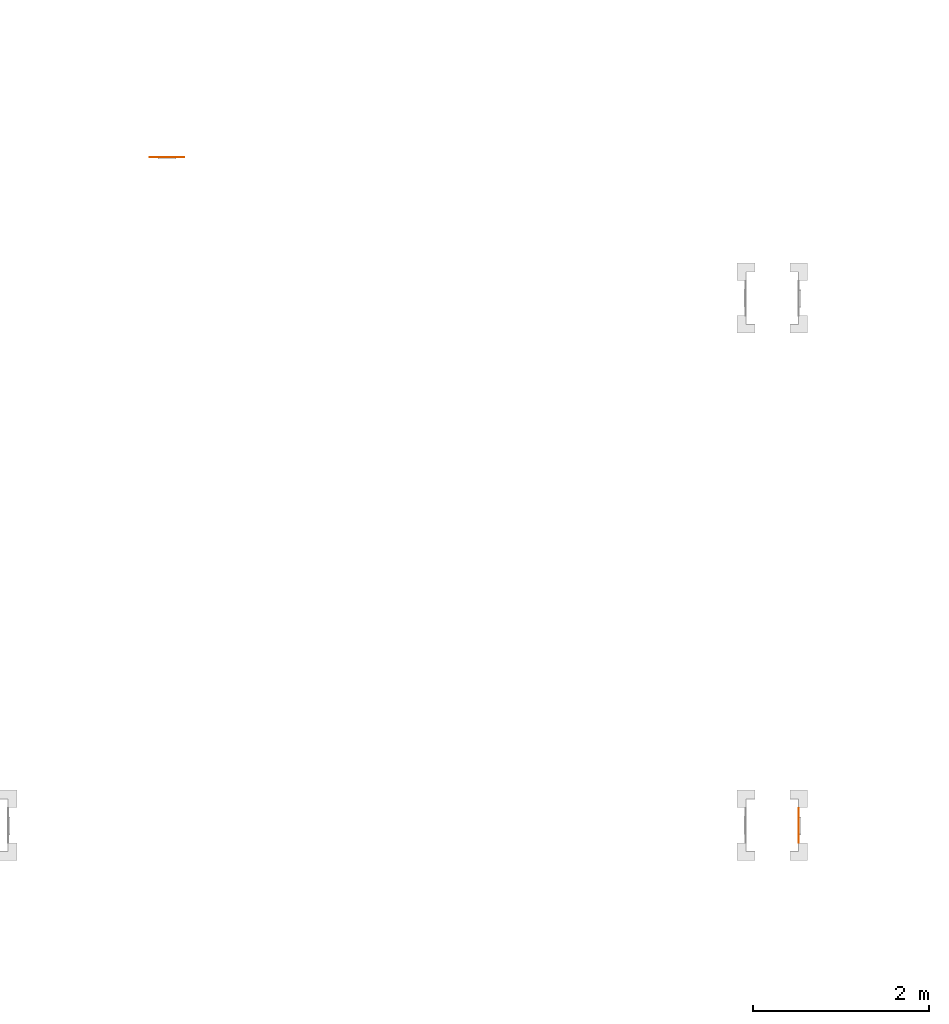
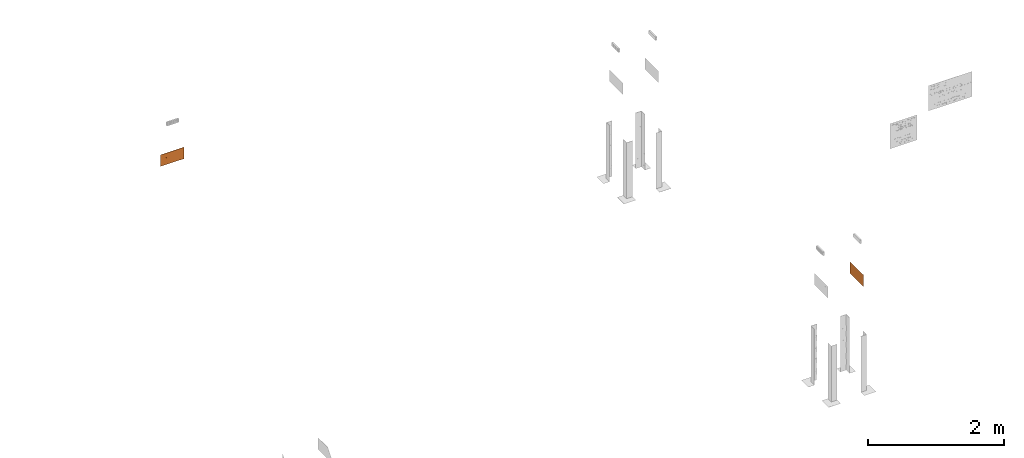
# One storey, part 83 of 119: 2 proxies.
"""IFC2X3 building model written with IfcOpenShell, lengths in metres."""

from ifc_helpers import new_model, entity, si_unit, converted_unit, derived_unit, direction, frame, frame_2d, origin, origin_2d_with_axis, place, context, subcontext, project, spatial, polyline, circle_curve, parameter, trimmed, segment, composite_curve, rectangle, outline, extrude, source, transform, mapped, material, material_list, type_object, type_shapes, element, save


model = new_model("IFC2X3")

# Units and contexts
model_context = context("Model", 3, precision=1e-05, world=origin(), true_north=direction((6.12303176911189e-17, 1.0)))
body_context = subcontext(model_context, "Body", "Model", "MODEL_VIEW")
ifc_project = project(units=[si_unit("LENGTHUNIT", "METRE"), si_unit("AREAUNIT", "SQUARE_METRE"), si_unit("VOLUMEUNIT", "CUBIC_METRE"), converted_unit("PLANEANGLEUNIT", "DEGREE", entity("IfcRatioMeasure", 0.0174532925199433), si_unit("PLANEANGLEUNIT", "RADIAN"), dimensions=[0, 0, 0, 0, 0, 0, 0]), si_unit("MASSUNIT", "GRAM", prefix="KILO"), derived_unit("MASSDENSITYUNIT", [(si_unit("MASSUNIT", "GRAM", prefix="KILO"), 1), (si_unit("LENGTHUNIT", "METRE"), -3)]), derived_unit("MOMENTOFINERTIAUNIT", [(si_unit("LENGTHUNIT", "METRE"), 4)]), si_unit("TIMEUNIT", "SECOND"), si_unit("FREQUENCYUNIT", "HERTZ"), si_unit("THERMODYNAMICTEMPERATUREUNIT", "DEGREE_CELSIUS"), derived_unit("THERMALTRANSMITTANCEUNIT", [(si_unit("MASSUNIT", "GRAM", prefix="KILO"), 1), (si_unit("THERMODYNAMICTEMPERATUREUNIT", "KELVIN"), -1), (si_unit("TIMEUNIT", "SECOND"), -3)]), derived_unit("VOLUMETRICFLOWRATEUNIT", [(si_unit("LENGTHUNIT", "METRE"), 3), (si_unit("TIMEUNIT", "SECOND"), -1)]), si_unit("ELECTRICCURRENTUNIT", "AMPERE"), si_unit("ELECTRICVOLTAGEUNIT", "VOLT"), si_unit("POWERUNIT", "WATT"), si_unit("FORCEUNIT", "NEWTON", prefix="KILO"), si_unit("ILLUMINANCEUNIT", "LUX"), si_unit("LUMINOUSFLUXUNIT", "LUMEN"), si_unit("LUMINOUSINTENSITYUNIT", "CANDELA"), derived_unit("USERDEFINED", [(si_unit("MASSUNIT", "GRAM", prefix="KILO"), -1), (si_unit("LENGTHUNIT", "METRE"), -2), (si_unit("TIMEUNIT", "SECOND"), 3), (si_unit("LUMINOUSFLUXUNIT", "LUMEN"), 1)]), derived_unit("LINEARVELOCITYUNIT", [(si_unit("LENGTHUNIT", "METRE"), 1), (si_unit("TIMEUNIT", "SECOND"), -1)]), si_unit("PRESSUREUNIT", "PASCAL"), derived_unit("USERDEFINED", [(si_unit("LENGTHUNIT", "METRE"), -2), (si_unit("MASSUNIT", "GRAM", prefix="KILO"), 1), (si_unit("TIMEUNIT", "SECOND"), -2)]), derived_unit("LINEARFORCEUNIT", [(si_unit("MASSUNIT", "GRAM", prefix="KILO"), 1), (si_unit("LENGTHUNIT", "METRE"), 1), (si_unit("TIMEUNIT", "SECOND"), -2), (si_unit("LENGTHUNIT", "METRE"), -1)]), derived_unit("PLANARFORCEUNIT", [(si_unit("MASSUNIT", "GRAM", prefix="KILO"), 1), (si_unit("LENGTHUNIT", "METRE"), 1), (si_unit("TIMEUNIT", "SECOND"), -2), (si_unit("LENGTHUNIT", "METRE"), -2)])], contexts=[model_context])

# Site, building, storey
site_placement = place(None, origin())
site = spatial("IfcSite", under=ifc_project, at=site_placement, Name="Default", CompositionType="ELEMENT")
building_placement = place(site_placement, origin())
building = spatial("IfcBuilding", under=site, at=building_placement, CompositionType="ELEMENT")
storey_placement = place(building_placement, origin())
storey = spatial("IfcBuildingStorey", under=building, at=storey_placement, Name="PAV. 01 - TÉRREO", CompositionType="ELEMENT", Elevation=0.0)

# Proxies
ifc_material_1 = material(Name="Plastico branco")
ifc_material_2 = material(Name="Plastico Verde")
ifc_material_list_1 = material_list([ifc_material_1, ifc_material_2])
building_element_proxy_type = type_object("IfcBuildingElementProxyType", Name="Sinalização de orientação - S02 - Indicação do sentido da saída de emergência esquerda:Distância 12m", PredefinedType="NOTDEFINED", material=ifc_material_1)
shared_shape = source(origin(), body_context, "Body", "SweptSolid", [
    extrude(outline(polyline([(-0.0269307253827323, -0.024231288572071), (-0.0259628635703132, -0.024231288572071), (-0.0248498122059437, -0.0234083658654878), (-0.0236286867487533, -0.0219305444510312), (-0.0223366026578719, -0.0199658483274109), (-0.0210106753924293, -0.0176823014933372), (-0.0159905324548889, -0.00832626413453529), (-0.0136800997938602, -0.00426313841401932), (-0.0125256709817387, -0.00238736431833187), (-0.0113513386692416, -0.000610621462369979), (-0.0101417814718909, 0.0010707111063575), (-0.00888166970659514, 0.00266026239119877), (-0.00754048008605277, 0.00417640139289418), (-0.00604105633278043, 0.00568273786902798), (-0.00429732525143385, 0.00725153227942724), (-0.00222321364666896, 0.00895504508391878), (0.000267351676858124, 0.010865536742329), (0.0161156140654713, 0.0220225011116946), (0.00541084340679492, 0.027666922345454), (0.004563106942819, 0.0280964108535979), (0.00398677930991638, 0.0283743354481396), (0.00361343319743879, 0.0285356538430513), (0.00337464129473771, 0.0286153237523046), (0.0032019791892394, 0.0286482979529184), (0.00303386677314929, 0.0286578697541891), (0.00283021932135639, 0.0286307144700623), (0.00255516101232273, 0.02854633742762), (0.00217281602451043, 0.0283842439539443), (0.00164730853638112, 0.0281239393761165), (0.000942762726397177, 0.0277449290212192), (-0.0154440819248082, 0.0179800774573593), (-0.0169906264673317, 0.0173662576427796), (-0.0184263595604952, 0.0170104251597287), (-0.0197467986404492, 0.0168906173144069), (-0.0209474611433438, 0.0169848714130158), (-0.0220238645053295, 0.017271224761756), (-0.0229715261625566, 0.0177277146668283), (-0.0237859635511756, 0.0183323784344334), (-0.0244626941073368, 0.0190632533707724), (-0.0249972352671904, 0.0198983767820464), (-0.025385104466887, 0.0208157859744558), (-0.0256218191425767, 0.0217935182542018), (-0.02570289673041, 0.0228096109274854), (-0.0256238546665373, 0.023842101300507), (-0.0253802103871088, 0.024869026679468), (-0.024967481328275, 0.0258684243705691), (-0.0243811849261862, 0.026818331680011), (-0.0236168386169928, 0.0276967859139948), (-0.022669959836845, 0.0284818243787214), (-0.012358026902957, 0.0349145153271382), (-0.0056365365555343, 0.0389186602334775), (-0.00143098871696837, 0.0410123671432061), (0.00133311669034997, 0.0417137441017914), (0.00371952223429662, 0.0415365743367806), (0.00635115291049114, 0.0408174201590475), (0.00926485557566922, 0.0396572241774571), (0.0124569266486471, 0.0381406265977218), (0.0382522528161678, 0.0245317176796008), (0.0409647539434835, 0.0230291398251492), (0.0432264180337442, 0.021505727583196), (0.0450948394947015, 0.0197223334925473), (0.0466276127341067, 0.0174398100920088), (0.0478823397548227, 0.0144190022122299), (0.0489477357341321, 0.0103891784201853), (0.0500145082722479, 0.00497609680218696), (0.0529984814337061, -0.0115815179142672), (0.0687826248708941, -0.0199385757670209), (0.101976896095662, 0.0427561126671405), (0.00232291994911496, 0.0955188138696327), (-0.0513007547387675, -0.00576130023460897), (-0.0561261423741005, -0.00320645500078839), (-0.0853051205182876, -0.0156605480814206), (-0.0628396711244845, -0.0275550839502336), (-0.0734521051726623, -0.0475990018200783), (-0.0904241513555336, -0.0529832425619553), (-0.0204118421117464, -0.0900518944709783), (-0.00292720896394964, -0.0849390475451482), (0.0122206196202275, -0.0929592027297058), (-0.00693758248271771, -0.0971859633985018), (0.00953030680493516, -0.105905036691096), (0.0262018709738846, -0.100361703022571), (0.0628213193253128, -0.0311978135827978), (0.0451218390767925, -0.0218302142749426), (0.0436304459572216, -0.0209809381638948), (0.0424868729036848, -0.020192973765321), (0.041614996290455, -0.0193663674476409), (0.0409386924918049, -0.0184011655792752), (0.0403818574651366, -0.0171974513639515), (0.0398810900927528, -0.0156792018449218), (0.0394075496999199, -0.0138354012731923), (0.0389382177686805, -0.0116659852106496), (0.0366426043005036, 0.000269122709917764), (0.0172569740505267, -0.0138624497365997), (0.0147941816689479, -0.0880984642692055), (-0.000353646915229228, -0.0800783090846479), (-0.000324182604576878, -0.0142849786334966), (-0.0124368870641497, -0.0319051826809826), (-0.0138384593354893, -0.0341119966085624), (-0.0151491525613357, -0.0360250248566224), (-0.0164165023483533, -0.0376353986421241), (-0.0176880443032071, -0.0389342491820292), (-0.0190113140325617, -0.0399127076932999), (-0.0204338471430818, -0.0405619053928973), (-0.0220031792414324, -0.0408729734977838), (-0.0237668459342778, -0.0408370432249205), (-0.025772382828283, -0.0404452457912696), (-0.0280673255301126, -0.0396887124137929), (-0.0306992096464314, -0.0385585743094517), (-0.0337155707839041, -0.0370459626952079), (-0.0714172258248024, -0.0170844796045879), (-0.0536029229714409, -0.0101094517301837), (-0.0269307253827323, -0.024231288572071)]), holes=[composite_curve([segment(trimmed(circle_curve(frame_2d((0.0517161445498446, 0.0359195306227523), x_axis=(0.883770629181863, -0.46792037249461)), 0.0134), [parameter(180.0)], [parameter(360.0)], True, "PARAMETER"), False, "CONTINUOUS"), segment(trimmed(circle_curve(frame_2d((0.0517161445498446, 0.0359195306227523), x_axis=(0.883770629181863, -0.46792037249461)), 0.0134), [parameter(2.03555499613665e-13)], [parameter(180.0)], True, "PARAMETER"), False, "CONTINUOUS")], self_intersect=False)]), frame((0.112957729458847, -0.00110000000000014, 1.90431633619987), z_axis=(0.0, 1.0, 0.0), x_axis=(-0.883770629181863, 0.0, 0.46792037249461)), (0.0, 0.0, 1.0), 0.0011),
    extrude(outline(polyline([(-0.197500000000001, -0.102500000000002), (0.197500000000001, -0.102500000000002), (0.197500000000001, 0.102500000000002), (-0.197500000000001, 0.102500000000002), (-0.197500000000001, -0.102500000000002)]), holes=[polyline([(-0.190000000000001, -0.0950000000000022), (-0.190000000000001, 0.0949999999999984), (0.189999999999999, 0.0949999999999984), (0.189999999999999, -0.0950000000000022), (-0.190000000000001, -0.0950000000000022)])]), frame((0.0, -0.0011, 1.9025), z_axis=(0.0, 1.0, 0.0), x_axis=(1.0, 0.0, 0.0)), (0.0, 0.0, 1.0), 0.0011),
    extrude(rectangle(XDim=0.38, YDim=0.001, at=origin_2d_with_axis()), frame((0.0, -0.0005, 1.8075)), (0.0, 0.0, 1.0), 0.190000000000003),
    extrude(outline(polyline([(-0.0341511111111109, -0.0575999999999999), (0.016628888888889, -0.0575999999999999), (-0.0218311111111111, -0.0191399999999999), (0.0852288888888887, -0.0191399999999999), (0.0852288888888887, 0.0191400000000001), (-0.0218311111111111, 0.0191400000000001), (0.016628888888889, 0.0576000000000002), (-0.0341511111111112, 0.0576000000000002), (-0.0917511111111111, 0.0), (-0.0341511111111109, -0.0575999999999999)])), frame((-0.0852288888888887, -0.0011, 1.9025), z_axis=(0.0, 1.0, 0.0), x_axis=(1.0, 0.0, 0.0)), (0.0, 0.0, 1.0), 0.0011),
])
type_shapes(building_element_proxy_type, [shared_shape])
proxy_1_placement = place(storey_placement, frame((59.2846896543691, 8.03338193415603, 0.0)))
element("IfcBuildingElementProxy", 1, at=proxy_1_placement, inside=storey, type_object=building_element_proxy_type, material=ifc_material_list_1, Name="Sinalização de orientação - S02 - Indicação do sentido da saída de emergência esquerda:Distância 12m", ObjectType="Sinalização de orientação - S02 - Indicação do sentido da saída de emergência esquerda:Distância 12m", context=body_context, shape_type="MappedRepresentation", body=[
    mapped(shared_shape, transform((0.0, 0.0, 0.0), scale=1.0)),
])
ifc_material_list_2 = material_list([ifc_material_1, ifc_material_2])
proxy_2_placement = place(storey_placement, frame((66.4737997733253, 0.425057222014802, 0.0), z_axis=(0.0, 0.0, 1.0), x_axis=(0.0, 1.0, 0.0)))
element("IfcBuildingElementProxy", 2, at=proxy_2_placement, inside=storey, type_object=building_element_proxy_type, material=ifc_material_list_2, Name="Sinalização de orientação - S02 - Indicação do sentido da saída de emergência esquerda:Distância 12m", ObjectType="Sinalização de orientação - S02 - Indicação do sentido da saída de emergência esquerda:Distância 12m", context=body_context, shape_type="MappedRepresentation", body=[
    mapped(shared_shape, transform((0.0, 0.0, 0.0), scale=1.0)),
])

save(model, "model.ifc")
